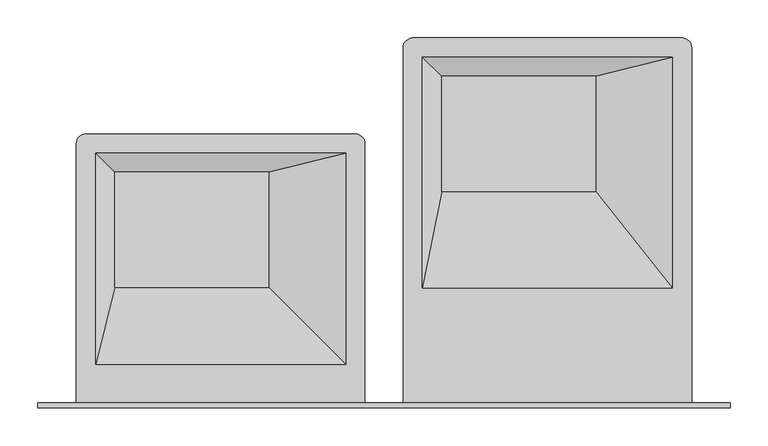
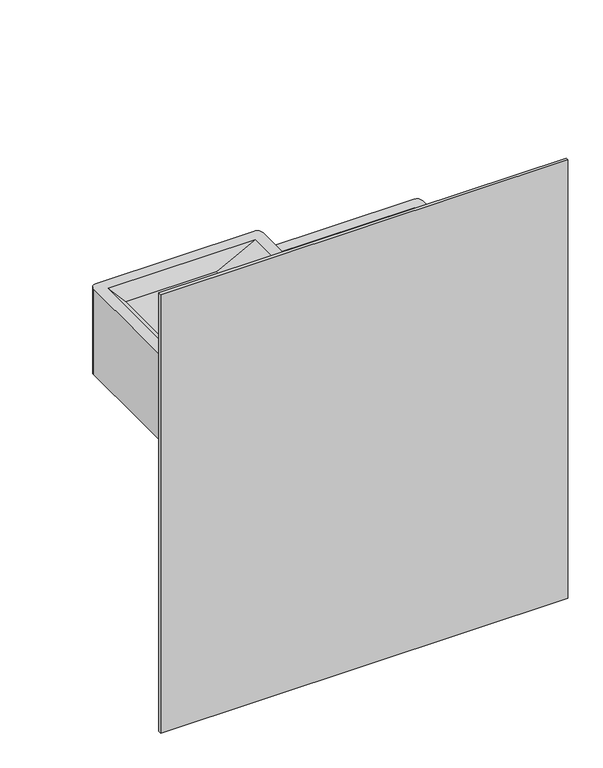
"""IFC4 building model written with IfcOpenShell, lengths in millimetres: flow terminal geometry, Drinking Fountain-Hi-Lo-3D : Drinking Fountain-Hi-Lo-3D."""

from ifc_helpers import new_model, si_unit, frame, origin, place, context, project, spatial, polyline, circle_curve, outline, extrude, source, transform, mapped, element, save
from ifc_brep_helpers import plane_surface, cylinder_surface, advanced_brep


def flow_terminal_df21477b(model_context):
    return source(origin(), model_context, "Body", "SolidModel", [
        advanced_brep(
        [(-37.5185542, 82.55, 1003.3), (-37.5185542, 425.45, 1003.3), (-50.2185542, 438.15, 1003.3), (-405.8185542, 438.15, 1003.3), (-418.5185542, 425.45, 1003.3), (-418.5185542, 82.55, 1003.3), (-393.1185542, 412.75, 1003.3), (-62.9185542, 412.75, 1003.3), (-62.9185542, 133.35, 1003.3), (-393.1185542, 133.35, 1003.3), (-37.5185542, 82.55, 800.1), (-418.5185542, 82.55, 800.1), (-418.5185542, 425.45, 800.1), (-405.8185542, 438.15, 800.1), (-50.2185542, 438.15, 800.1), (-37.5185542, 425.45, 800.1), (-164.5185542, 387.35, 977.9), (-367.7185542, 387.35, 977.9), (-367.7185542, 234.95, 977.9), (-164.5185542, 234.95, 977.9)],
        [
            (0, 1),
            (1, 2, circle_curve(frame((-50.2185542, 425.45, 1003.3), z_axis=(0.0, 0.0, 1.0), x_axis=(0.0, 1.0, 0.0)), 12.7)),
            (2, 3),
            (3, 4, circle_curve(frame((-405.8185542, 425.45, 1003.3), z_axis=(0.0, 0.0, 1.0), x_axis=(0.0, 1.0, 0.0)), 12.7)),
            (4, 5),
            (5, 0),
            (6, 7),
            (7, 8),
            (8, 9),
            (9, 6),
            (10, 11),
            (11, 12),
            (12, 13, circle_curve(frame((-405.8185542, 425.45, 800.1), z_axis=(0.0, 0.0, -1.0), x_axis=(0.0, 1.0, 0.0)), 12.7)),
            (13, 14),
            (14, 15, circle_curve(frame((-50.2185542, 425.45, 800.1), z_axis=(0.0, 0.0, -1.0), x_axis=(0.0, 1.0, 0.0)), 12.7)),
            (15, 10),
            (0, 10),
            (15, 1),
            (14, 2),
            (13, 3),
            (12, 4),
            (11, 5),
            (16, 17),
            (17, 18),
            (18, 19),
            (19, 16),
            (16, 7),
            (6, 17),
            (9, 18),
            (8, 19),
        ],
        [
            plane_surface(frame((-37.5185542, 82.55, 1003.3), z_axis=(0.0, 0.0, 1.0), x_axis=(0.0, 1.0, 0.0))),
            plane_surface(frame((-37.5185542, 82.55, 800.1), z_axis=(0.0, 0.0, -1.0), x_axis=(0.0, -1.0, 0.0))),
            plane_surface(frame((-37.5185542, 82.55, 1003.3), z_axis=(1.0, 0.0, 0.0), x_axis=(0.0, 0.0, -1.0))),
            cylinder_surface(frame((-50.2185542, 425.45, 800.1), z_axis=(0.0, 0.0, 1.0), x_axis=(0.0, 1.0, 0.0)), 12.7),
            plane_surface(frame((-50.2185542, 438.15, 1003.3), z_axis=(0.0, 1.0, 0.0), x_axis=(0.0, 0.0, -1.0))),
            cylinder_surface(frame((-405.8185542, 425.45, 800.1), z_axis=(0.0, 0.0, 1.0), x_axis=(0.0, 1.0, 0.0)), 12.7),
            plane_surface(frame((-418.5185542, 425.45, 1003.3), z_axis=(-1.0, 0.0, 0.0), x_axis=(0.0, 0.0, -1.0))),
            plane_surface(frame((-418.5185542, 82.55, 1003.3), z_axis=(0.0, -1.0, 0.0), x_axis=(0.0, 0.0, -1.0))),
            plane_surface(frame((-266.1185542, 311.15, 977.9), z_axis=(0.0, 0.0, 1.0), x_axis=(-1.0, 0.0, 0.0))),
            plane_surface(frame((-266.1185542, 387.35, 977.9), z_axis=(0.0, -0.7071067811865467, 0.7071067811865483), x_axis=(-1.0, 0.0, 0.0))),
            plane_surface(frame((-367.7185542, 311.15, 977.9), z_axis=(0.7071067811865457, 0.0, 0.7071067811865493), x_axis=(0.0, -1.0, 0.0))),
            plane_surface(frame((-266.1185542, 234.95, 977.9), z_axis=(0.0, 0.2425356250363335, 0.9701425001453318), x_axis=(1.0, 0.0, 0.0))),
            plane_surface(frame((-164.5185542, 311.15, 977.9), z_axis=(-0.24253562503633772, 0.0, 0.9701425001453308), x_axis=(0.0, 1.0, 0.0))),
        ],
        [
            (0, [[1, 2, 3, 4, 5, 6], [7, 8, 9, 10]]),
            (1, [[11, 12, 13, 14, 15, 16]]),
            (2, [[-1, 17, -16, 18]]),
            (3, [[-2, -18, -15, 19]]),
            (4, [[-3, -19, -14, 20]]),
            (5, [[-4, -20, -13, 21]]),
            (6, [[-5, -21, -12, 22]]),
            (7, [[-6, -22, -11, -17]]),
            (8, [[23, 24, 25, 26]]),
            (9, [[-23, 27, -7, 28]]),
            (10, [[-24, -28, -10, 29]]),
            (11, [[-25, -29, -9, 30]]),
            (12, [[-26, -30, -8, -27]]),
        ],
    ),
        advanced_brep(
        [(394.2814458, 82.55, 850.9), (394.2814458, 552.45, 850.9), (381.5814458, 565.15, 850.9), (25.9814458, 565.15, 850.9), (13.2814458, 552.45, 850.9), (13.2814458, 82.55, 850.9), (38.6814458, 539.3987458, 850.9), (368.8814458, 539.3987458, 850.9), (368.8814458, 234.5987458, 850.9), (38.6814458, 234.5987458, 850.9), (394.2814458, 82.55, 645.7067627), (13.2814458, 82.55, 645.7067627), (13.2814458, 552.45, 645.7067627), (25.9814458, 565.15, 645.7067627), (381.5814458, 565.15, 645.7067627), (394.2814458, 552.45, 645.7067627), (267.2814458, 514.35, 825.5), (64.0814458, 514.35, 825.5), (64.0814458, 361.95, 825.5), (267.2814458, 361.95, 825.5)],
        [
            (0, 1),
            (1, 2, circle_curve(frame((381.5814458, 552.45, 850.9), z_axis=(0.0, 0.0, 1.0), x_axis=(0.0, 1.0, 0.0)), 12.7)),
            (2, 3),
            (3, 4, circle_curve(frame((25.9814458, 552.45, 850.9), z_axis=(0.0, 0.0, 1.0), x_axis=(0.0, 1.0, 0.0)), 12.7)),
            (4, 5),
            (5, 0),
            (6, 7),
            (7, 8),
            (8, 9),
            (9, 6),
            (10, 11),
            (11, 12),
            (12, 13, circle_curve(frame((25.9814458, 552.45, 645.7067627), z_axis=(0.0, 0.0, -1.0), x_axis=(0.0, 1.0, 0.0)), 12.7)),
            (13, 14),
            (14, 15, circle_curve(frame((381.5814458, 552.45, 645.7067627), z_axis=(0.0, 0.0, -1.0), x_axis=(0.0, 1.0, 0.0)), 12.7)),
            (15, 10),
            (0, 10),
            (15, 1),
            (14, 2),
            (13, 3),
            (12, 4),
            (11, 5),
            (16, 17),
            (17, 18),
            (18, 19),
            (19, 16),
            (16, 7),
            (6, 17),
            (9, 18),
            (8, 19),
        ],
        [
            plane_surface(frame((394.2814458, 82.55, 850.9), z_axis=(0.0, 0.0, 1.0), x_axis=(0.0, 1.0, 0.0))),
            plane_surface(frame((394.2814458, 82.55, 645.7067627), z_axis=(0.0, 0.0, -1.0), x_axis=(0.0, -1.0, 0.0))),
            plane_surface(frame((394.2814458, 82.55, 850.9), z_axis=(1.0, 0.0, 0.0), x_axis=(0.0, 0.0, -1.0))),
            cylinder_surface(frame((381.5814458, 552.45, 645.7067627), z_axis=(0.0, 0.0, 1.0), x_axis=(0.0, 1.0, 0.0)), 12.7),
            plane_surface(frame((381.5814458, 565.15, 850.9), z_axis=(0.0, 1.0, 0.0), x_axis=(0.0, 0.0, -1.0))),
            cylinder_surface(frame((25.9814458, 552.45, 645.7067627), z_axis=(0.0, 0.0, 1.0), x_axis=(0.0, 1.0, 0.0)), 12.7),
            plane_surface(frame((13.2814458, 552.45, 850.9), z_axis=(-1.0, 0.0, 0.0), x_axis=(0.0, 0.0, -1.0))),
            plane_surface(frame((13.2814458, 82.55, 850.9), z_axis=(0.0, -1.0, 0.0), x_axis=(0.0, 0.0, -1.0))),
            plane_surface(frame((165.6814458, 438.15, 825.5), z_axis=(0.0, 0.0, 1.0), x_axis=(-1.0, 0.0, 0.0))),
            plane_surface(frame((165.6814458, 514.35, 825.5), z_axis=(0.0, -0.712012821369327, 0.7021664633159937), x_axis=(-1.0, 0.0, 0.0))),
            plane_surface(frame((64.0814458, 438.15, 825.5), z_axis=(0.707106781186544, 0.0, 0.7071067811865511), x_axis=(0.0, -1.0, 0.0))),
            plane_surface(frame((165.6814458, 361.95, 825.5), z_axis=(0.0, 0.1955959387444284, 0.9806845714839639), x_axis=(1.0, 0.0, 0.0))),
            plane_surface(frame((267.2814458, 438.15, 825.5), z_axis=(-0.24253562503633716, 0.0, 0.9701425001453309), x_axis=(0.0, 1.0, 0.0))),
        ],
        [
            (0, [[1, 2, 3, 4, 5, 6], [7, 8, 9, 10]]),
            (1, [[11, 12, 13, 14, 15, 16]]),
            (2, [[-1, 17, -16, 18]]),
            (3, [[-2, -18, -15, 19]]),
            (4, [[-3, -19, -14, 20]]),
            (5, [[-4, -20, -13, 21]]),
            (6, [[-5, -21, -12, 22]]),
            (7, [[-6, -22, -11, -17]]),
            (8, [[23, 24, 25, 26]]),
            (9, [[-23, 27, -7, 28]]),
            (10, [[-24, -28, -10, 29]]),
            (11, [[-25, -29, -9, 30]]),
            (12, [[-26, -30, -8, -27]]),
        ],
    ),
        extrude(outline(polyline([(-469.3185542, 82.55), (445.0814458, 82.55), (445.0814458, 76.2), (-469.3185542, 76.2), (-469.3185542, 82.55)])), frame((0.0, 0.0, 177.8), z_axis=(0.0, 0.0, 1.0), x_axis=(1.0, 0.0, 0.0)), (0.0, 0.0, 1.0), 1041.4),
    ])


if __name__ == "__main__":
    model = new_model("IFC4")
    model_context = context("Model", 3, world=origin())
    ifc_project = project(units=[si_unit("LENGTHUNIT", "METRE", prefix="MILLI")], contexts=[model_context])
    site = spatial("IfcSite", under=ifc_project)
    building = spatial("IfcBuilding", under=site)
    placement = place(None, origin())
    flow_terminal_shape = flow_terminal_df21477b(model_context)
    element("IfcFlowTerminal", 1, ObjectType="Drinking Fountain-Hi-Lo-3D : Drinking Fountain-Hi-Lo-3D", at=placement, inside=building, context=model_context, shape_type="MappedRepresentation", body=[
        mapped(flow_terminal_shape, transform((0.0, 0.0, 0.0), x_axis=(1.0, 0.0, 0.0), y_axis=(0.0, 1.0, 0.0), z_axis=(0.0, 0.0, 1.0))),
    ])
    save(model, "model.ifc")
